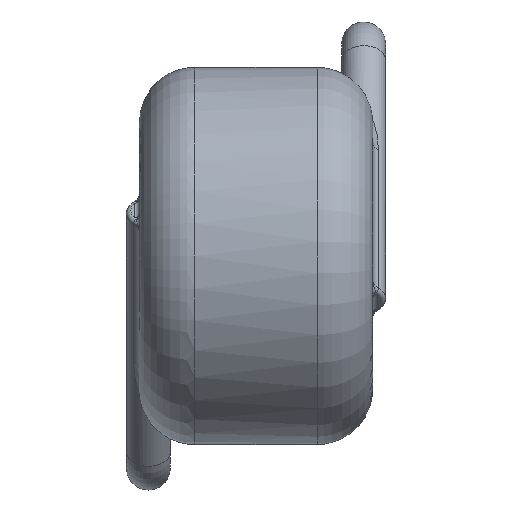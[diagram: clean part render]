
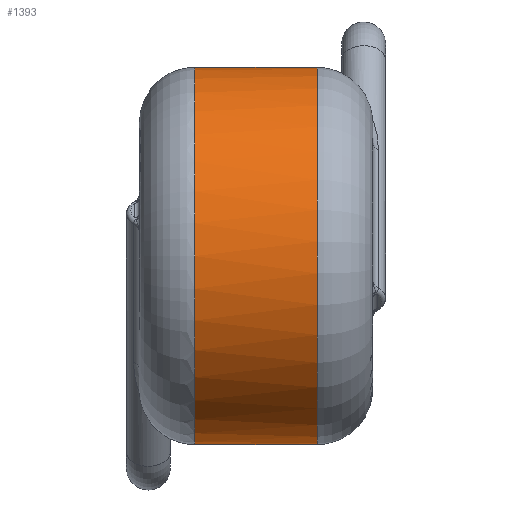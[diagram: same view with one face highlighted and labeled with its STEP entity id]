
A CAD part, left-side view. The second image highlights one B-rep face of the part: STEP entity #1393.
In plain terms, the highlighted cylindrical face has radius 8.5 mm (diameter 17 mm), a full revolution.
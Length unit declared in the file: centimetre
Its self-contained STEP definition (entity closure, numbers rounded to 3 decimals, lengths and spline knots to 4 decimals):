
#962=CARTESIAN_POINT('',(0.85,0.72,0.));
#963=VERTEX_POINT('',#962);
#964=CARTESIAN_POINT('',(0.0,0.72,0.0));
#965=DIRECTION('',(0.0,1.0,0.0));
#966=DIRECTION('',(-1.0,0.0,0.0));
#967=AXIS2_PLACEMENT_3D('',#964,#965,#966);
#968=CIRCLE('',#967,0.85);
#969=EDGE_CURVE('',#963,#963,#968,.T.);
#1284=CARTESIAN_POINT('',(0.85,0.169,0.));
#1285=VERTEX_POINT('',#1284);
#1286=CARTESIAN_POINT('',(0.0,0.169,0.0));
#1287=DIRECTION('',(0.0,-1.0,0.0));
#1288=DIRECTION('',(-1.0,0.0,0.0));
#1289=AXIS2_PLACEMENT_3D('',#1286,#1287,#1288);
#1290=CIRCLE('',#1289,0.85);
#1291=EDGE_CURVE('',#1285,#1285,#1290,.T.);
#1382=CARTESIAN_POINT('',(0.0,0.4445,0.0));
#1383=DIRECTION('',(0.0,1.0,0.0));
#1384=DIRECTION('',(-1.0,0.0,0.0));
#1385=AXIS2_PLACEMENT_3D('',#1382,#1383,#1384);
#1386=CYLINDRICAL_SURFACE('',#1385,0.85);
#1387=ORIENTED_EDGE('',*,*,#969,.F.);
#1388=EDGE_LOOP('',(#1387));
#1389=FACE_OUTER_BOUND('',#1388,.T.);
#1390=ORIENTED_EDGE('',*,*,#1291,.F.);
#1391=EDGE_LOOP('',(#1390));
#1392=FACE_BOUND('',#1391,.T.);
#1393=ADVANCED_FACE('',(#1389,#1392),#1386,.T.);
